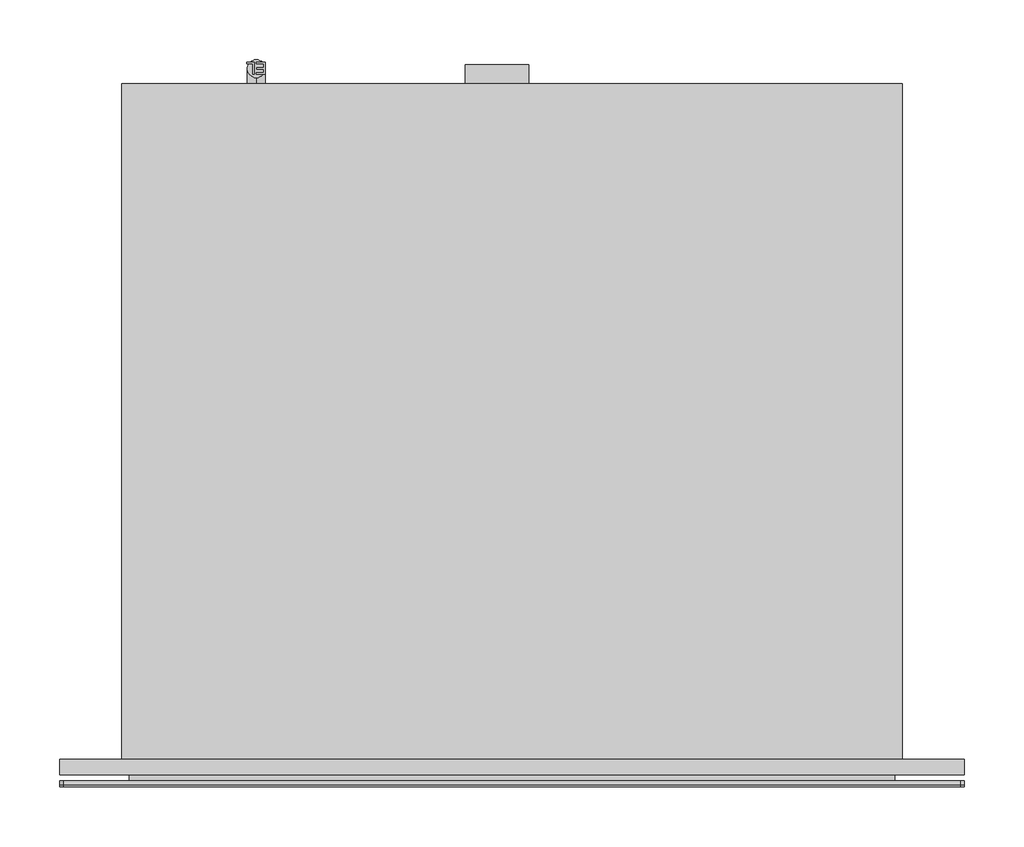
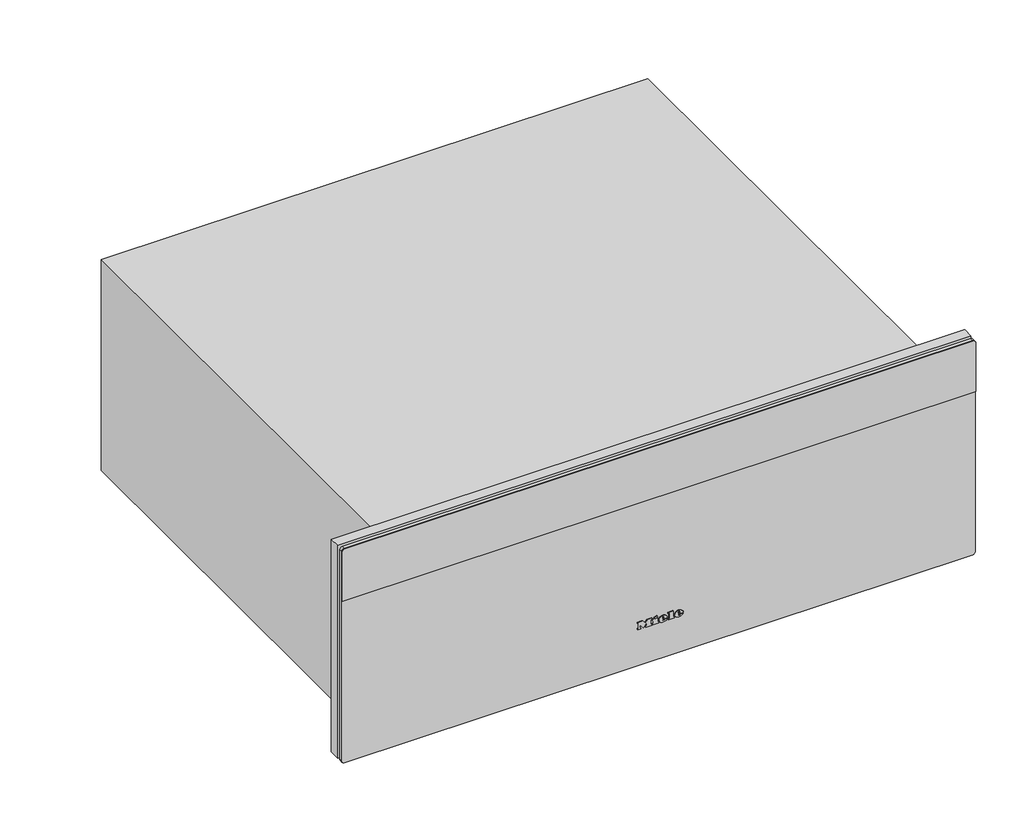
# Not in any storey: 1 proxy.
"""IFC4 building model written with IfcOpenShell, lengths in millimetres."""

from ifc_helpers import new_model, si_unit, origin, place, context, project, spatial, transform, mapped, element, save
from components import specialty_equipment_7c6c6db1

model = new_model("IFC4")

# Units and contexts
model_context = context("Model", 3, world=origin())
ifc_project = project(units=[si_unit("LENGTHUNIT", "METRE", prefix="MILLI")], contexts=[model_context])

# Site, building
site = spatial("IfcSite", under=ifc_project)
building = spatial("IfcBuilding", under=site)

# Proxy
placement = place(None, origin())
specialty_equipment_shape = specialty_equipment_7c6c6db1(model_context)
element("IfcBuildingElementProxy", 1, Name="11788750_BR_ESW7680_EDST-CLST : 30768040_BR_11788750_ESW7680_EDST-CLST", ObjectType="11788750_BR_ESW7680_EDST-CLST : 30768040_BR_11788750_ESW7680_EDST-CLST", at=placement, inside=building, context=model_context, shape_type="MappedRepresentation", body=[
    mapped(specialty_equipment_shape, transform((0.0, 0.0, 0.0), x_axis=(1.0, 0.0, 0.0), y_axis=(0.0, 1.0, 0.0), z_axis=(0.0, 0.0, 1.0))),
])

save(model, "model.ifc")
